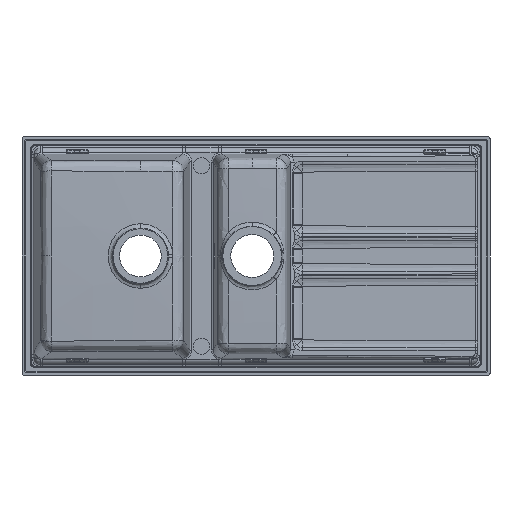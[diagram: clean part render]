
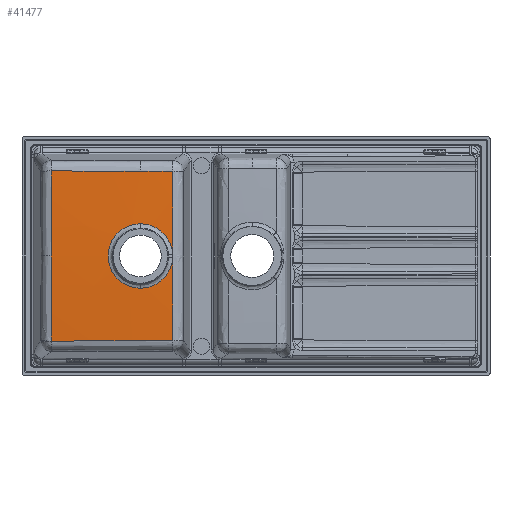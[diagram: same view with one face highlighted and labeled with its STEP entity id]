
A CAD part, front view. The second image highlights one B-rep face of the part: STEP entity #41477.
In plain terms, the highlighted free-form (B-spline) face has degree [3, 3] with [4, 4] control points.
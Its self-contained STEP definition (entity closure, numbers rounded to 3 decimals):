
#363 = DIRECTION ( 'NONE',  ( 0., 0.087, -0.996 ) ) ;
#543 = CARTESIAN_POINT ( 'NONE',  ( -177.871, -194.077, 181.467 ) ) ;
#1995 = DIRECTION ( 'NONE',  ( 0.996, 0.087, 0. ) ) ;
#2080 = CARTESIAN_POINT ( 'NONE',  ( -184.237, -192.119, 229.285 ) ) ;
#2173 = EDGE_CURVE ( 'NONE', #39734, #46404, #26458, .T. ) ;
#2316 = CIRCLE ( 'NONE', #8653, 4769.368 ) ;
#3416 = EDGE_CURVE ( 'NONE', #38573, #26349, #43220, .T. ) ;
#4307 = EDGE_CURVE ( 'NONE', #39606, #38573, #13939, .T. ) ;
#5602 = CARTESIAN_POINT ( 'NONE',  ( -143.612, -198.672, -43.531 ) ) ;
#6025 = CARTESIAN_POINT ( 'NONE',  ( -852.974, 4556.986, 0. ) ) ;
#6257 = CARTESIAN_POINT ( 'NONE',  ( -461.119, -194.617, 51.551 ) ) ;
#7107 = CARTESIAN_POINT ( 'NONE',  ( -247.021, -197.505, 0. ) ) ;
#7151 = AXIS2_PLACEMENT_3D ( 'NONE', #45463, #11227, #11408 ) ;
#7449 = EDGE_CURVE ( 'NONE', #19504, #20099, #42396, .T. ) ;
#7687 = CIRCLE ( 'NONE', #37756, 4770.481 ) ;
#8227 = CARTESIAN_POINT ( 'NONE',  ( 238.713, 4567.504, 0. ) ) ;
#8653 = AXIS2_PLACEMENT_3D ( 'NONE', #6025, #32565, #9707 ) ;
#9179 = CARTESIAN_POINT ( 'NONE',  ( -437.598, -190.782, 181.755 ) ) ;
#9707 = DIRECTION ( 'NONE',  ( 0.087, -0.996, 0. ) ) ;
#9947 = CARTESIAN_POINT ( 'NONE',  ( -345.303, -199.406, -63.839 ) ) ;
#11227 = DIRECTION ( 'NONE',  ( 0., 1., 0. ) ) ;
#11252 = ORIENTED_EDGE ( 'NONE', *, *, #4307, .T. ) ;
#11408 = DIRECTION ( 'NONE',  ( 0., 0., 1. ) ) ;
#12061 = DIRECTION ( 'NONE',  ( -0.996, 0.087, 0. ) ) ;
#12212 = DIRECTION ( 'NONE',  ( 0.087, 0.996, 0. ) ) ;
#12376 = ORIENTED_EDGE ( 'NONE', *, *, #7449, .T. ) ;
#13637 = ORIENTED_EDGE ( 'NONE', *, *, #27798, .T. ) ;
#13939 = CIRCLE ( 'NONE', #48096, 68.956 ) ;
#13946 = CARTESIAN_POINT ( 'NONE',  ( -178.171, -197.505, -3.822 ) ) ;
#14631 = DIRECTION ( 'NONE',  ( 0., 0., 1. ) ) ;
#15844 = CARTESIAN_POINT ( 'NONE',  ( -247.021, 4557.752, 597.198 ) ) ;
#16064 = DIRECTION ( 'NONE',  ( 0., -0.996, -0.087 ) ) ;
#17046 = ORIENTED_EDGE ( 'NONE', *, *, #29227, .T. ) ;
#17055 = DIRECTION ( 'NONE',  ( 0.087, -0.996, 0. ) ) ;
#17629 = CARTESIAN_POINT ( 'NONE',  ( -483.271, -188.971, 175.85 ) ) ;
#17902 = ORIENTED_EDGE ( 'NONE', *, *, #28035, .T. ) ;
#19296 = AXIS2_PLACEMENT_3D ( 'NONE', #15844, #26833, #42545 ) ;
#19504 = VERTEX_POINT ( 'NONE', #30164 ) ;
#19814 = CARTESIAN_POINT ( 'NONE',  ( -178.171, -197.505, 3.822 ) ) ;
#20099 = VERTEX_POINT ( 'NONE', #37544 ) ;
#20791 = CARTESIAN_POINT ( 'NONE',  ( -283.956, -194.267, 211.611 ) ) ;
#21362 = ORIENTED_EDGE ( 'NONE', *, *, #25790, .T. ) ;
#21899 = CARTESIAN_POINT ( 'NONE',  ( -247.021, -197.505, 68.956 ) ) ;
#22287 = VERTEX_POINT ( 'NONE', #19814 ) ;
#22605 = EDGE_CURVE ( 'NONE', #29091, #19504, #24630, .T. ) ;
#23131 = CARTESIAN_POINT ( 'NONE',  ( -247.021, -197.505, -68.956 ) ) ;
#23292 = CIRCLE ( 'NONE', #45648, 68.956 ) ;
#24630 = CIRCLE ( 'NONE', #38837, 4769.368 ) ;
#24742 = DIRECTION ( 'NONE',  ( 0.087, 0.996, 0. ) ) ;
#25106 = CARTESIAN_POINT ( 'NONE',  ( -135.028, -193.279, -181.195 ) ) ;
#25317 = AXIS2_PLACEMENT_3D ( 'NONE', #8227, #12061, #12212 ) ;
#25645 = DIRECTION ( 'NONE',  ( 0., 1., 0. ) ) ;
#25691 = ORIENTED_EDGE ( 'NONE', *, *, #22605, .T. ) ;
#25777 = FACE_OUTER_BOUND ( 'NONE', #30189, .T. ) ;
#25790 = EDGE_CURVE ( 'NONE', #26349, #22287, #23292, .T. ) ;
#26349 = VERTEX_POINT ( 'NONE', #21899 ) ;
#26458 = CIRCLE ( 'NONE', #19296, 4770.481 ) ;
#26833 = DIRECTION ( 'NONE',  ( 0., 0.087, -0.996 ) ) ;
#27798 = EDGE_CURVE ( 'NONE', #46404, #29091, #2316, .T. ) ;
#28035 = EDGE_CURVE ( 'NONE', #41569, #39734, #7687, .T. ) ;
#28617 = CARTESIAN_POINT ( 'NONE',  ( -360.819, -199.04, 65.588 ) ) ;
#29091 = VERTEX_POINT ( 'NONE', #46009 ) ;
#29117 = CARTESIAN_POINT ( 'NONE',  ( -160.043, -198.285, 93.525 ) ) ;
#29227 = EDGE_CURVE ( 'NONE', #22287, #41569, #35133, .T. ) ;
#30164 = CARTESIAN_POINT ( 'NONE',  ( -437.598, -190.782, -181.755 ) ) ;
#30189 = EDGE_LOOP ( 'NONE', ( #13637, #25691, #12376, #46915, #11252, #49316, #21362, #17046, #17902, #45977 ) ) ;
#30436 = DIRECTION ( 'NONE',  ( 0., 1., 0. ) ) ;
#32488 = CARTESIAN_POINT ( 'NONE',  ( -260.427, -200.263, 79.584 ) ) ;
#32565 = DIRECTION ( 'NONE',  ( 0.996, 0.087, 0. ) ) ;
#32822 = CARTESIAN_POINT ( 'NONE',  ( -383.667, -193.217, 193.793 ) ) ;
#33476 = AXIS2_PLACEMENT_3D ( 'NONE', #37737, #49427, #41592 ) ;
#33654 = CARTESIAN_POINT ( 'NONE',  ( -247.021, -197.505, 0. ) ) ;
#34602 = CARTESIAN_POINT ( 'NONE',  ( -247.021, -194.576, 181.423 ) ) ;
#35133 = CIRCLE ( 'NONE', #48655, 4783.212 ) ;
#36317 = CARTESIAN_POINT ( 'NONE',  ( -337.196, -194.312, -193.842 ) ) ;
#36487 = CARTESIAN_POINT ( 'NONE',  ( -244.448, -200.64, -53.702 ) ) ;
#36616 = DIRECTION ( 'NONE',  ( -0.996, 0.087, 0. ) ) ;
#37413 = EDGE_CURVE ( 'NONE', #20099, #39606, #38505, .T. ) ;
#37544 = CARTESIAN_POINT ( 'NONE',  ( -177.871, -194.077, -181.467 ) ) ;
#37737 = CARTESIAN_POINT ( 'NONE',  ( -247.021, 4557.752, -597.198 ) ) ;
#37756 = AXIS2_PLACEMENT_3D ( 'NONE', #46618, #363, #16064 ) ;
#38505 = CIRCLE ( 'NONE', #25317, 4783.212 ) ;
#38573 = VERTEX_POINT ( 'NONE', #23131 ) ;
#38837 = AXIS2_PLACEMENT_3D ( 'NONE', #43744, #1995, #17055 ) ;
#39606 = VERTEX_POINT ( 'NONE', #13946 ) ;
#39734 = VERTEX_POINT ( 'NONE', #34602 ) ;
#39822 = CARTESIAN_POINT ( 'NONE',  ( -236.1, -195.395, -187.581 ) ) ;
#39980 = CARTESIAN_POINT ( 'NONE',  ( 238.713, 4567.504, 0. ) ) ;
#40452 =( BOUNDED_SURFACE ( )  B_SPLINE_SURFACE ( 3, 3, ( 
 ( #2080, #29117, #5602, #25106 ),
 ( #20791, #32488, #36487, #39822 ),
 ( #32822, #28617, #9947, #36317 ),
 ( #17629, #6257, #44336, #43820 ) ),
 .UNSPECIFIED., .F., .F., .F. ) 
 B_SPLINE_SURFACE_WITH_KNOTS ( ( 4, 4 ),
 ( 4, 4 ),
 ( 0., 1. ),
 ( 0., 1. ),
 .UNSPECIFIED. ) 
 GEOMETRIC_REPRESENTATION_ITEM ( )  RATIONAL_B_SPLINE_SURFACE ( (
 ( 1., 0.998, 0.998, 1.),
 ( 1., 0.998, 0.998, 1.),
 ( 1., 0.998, 0.998, 1.),
 ( 1., 0.998, 0.998, 1.) ) ) 
 REPRESENTATION_ITEM ( '' )  SURFACE ( )  );
#41477 = ADVANCED_FACE ( 'NONE', ( #25777 ), #40452, .T. ) ;
#41569 = VERTEX_POINT ( 'NONE', #543 ) ;
#41592 = DIRECTION ( 'NONE',  ( 0., 0.996, -0.087 ) ) ;
#42396 = CIRCLE ( 'NONE', #33476, 4770.481 ) ;
#42545 = DIRECTION ( 'NONE',  ( 0., -0.996, -0.087 ) ) ;
#43220 = CIRCLE ( 'NONE', #7151, 68.956 ) ;
#43744 = CARTESIAN_POINT ( 'NONE',  ( -852.974, 4556.986, 0. ) ) ;
#43820 = CARTESIAN_POINT ( 'NONE',  ( -438.216, -190.033, -199.974 ) ) ;
#44336 = CARTESIAN_POINT ( 'NONE',  ( -446.075, -194.971, -73.933 ) ) ;
#45463 = CARTESIAN_POINT ( 'NONE',  ( -247.021, -197.505, 0. ) ) ;
#45648 = AXIS2_PLACEMENT_3D ( 'NONE', #33654, #25645, #14631 ) ;
#45977 = ORIENTED_EDGE ( 'NONE', *, *, #2173, .T. ) ;
#46009 = CARTESIAN_POINT ( 'NONE',  ( -437.296, -194.233, 0. ) ) ;
#46404 = VERTEX_POINT ( 'NONE', #9179 ) ;
#46618 = CARTESIAN_POINT ( 'NONE',  ( -247.021, 4557.752, 597.198 ) ) ;
#46915 = ORIENTED_EDGE ( 'NONE', *, *, #37413, .T. ) ;
#48096 = AXIS2_PLACEMENT_3D ( 'NONE', #7107, #30436, #49482 ) ;
#48655 = AXIS2_PLACEMENT_3D ( 'NONE', #39980, #36616, #24742 ) ;
#49316 = ORIENTED_EDGE ( 'NONE', *, *, #3416, .T. ) ;
#49427 = DIRECTION ( 'NONE',  ( 0., 0.087, 0.996 ) ) ;
#49482 = DIRECTION ( 'NONE',  ( 0., 0., 1. ) ) ;
